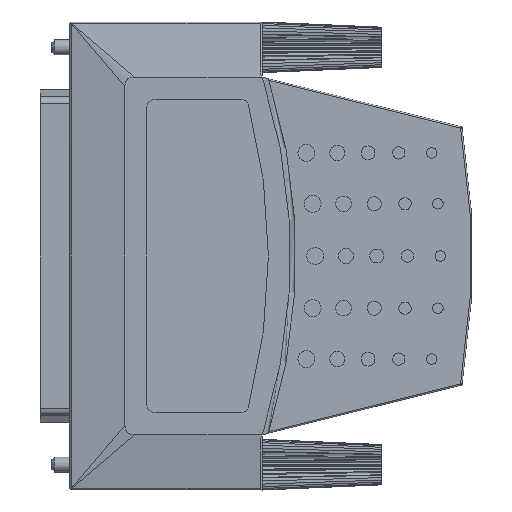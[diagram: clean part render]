
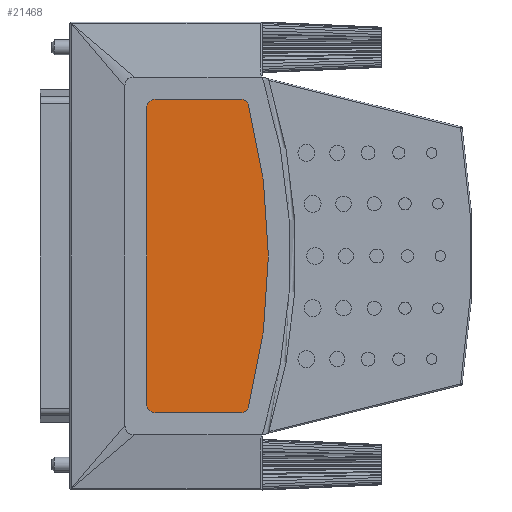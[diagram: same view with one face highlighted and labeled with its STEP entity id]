
A CAD part, front view. The second image highlights one B-rep face of the part: STEP entity #21468.
In plain terms, the highlighted planar face has unit normal (0, -1, 0).
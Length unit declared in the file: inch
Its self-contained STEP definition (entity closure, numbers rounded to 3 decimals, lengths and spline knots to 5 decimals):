
#7241=CARTESIAN_POINT('',(-1.734,-0.255,-0.811));
#7242=DIRECTION('',(0.,1.,0.));
#7243=DIRECTION('',(0.,0.,-1.));
#7244=AXIS2_PLACEMENT_3D('',#7241,#7242,#7243);
#7246=DIRECTION('',(0.,0.,1.));
#7247=VECTOR('',#7246,1.622);
#7248=CARTESIAN_POINT('',(-1.78,-0.255,-0.811));
#7249=LINE('',#7248,#7247);
#7250=CARTESIAN_POINT('',(-1.734,-0.255,0.811));
#7251=DIRECTION('',(0.,1.,0.));
#7252=DIRECTION('',(-1.,0.,0.));
#7253=AXIS2_PLACEMENT_3D('',#7250,#7251,#7252);
#7255=DIRECTION('',(1.,0.,0.));
#7256=VECTOR('',#7255,0.465);
#7257=CARTESIAN_POINT('',(-1.734,-0.255,0.857));
#7258=LINE('',#7257,#7256);
#7259=CARTESIAN_POINT('',(-1.269,-0.255,0.811));
#7260=DIRECTION('',(0.,1.,0.));
#7261=DIRECTION('',(0.,0.,1.));
#7262=AXIS2_PLACEMENT_3D('',#7259,#7260,#7261);
#7264=CARTESIAN_POINT('',(-4.29935,-0.255,0.));
#7265=DIRECTION('',(0.,1.,0.));
#7266=DIRECTION('',(0.966,0.,0.259));
#7267=AXIS2_PLACEMENT_3D('',#7264,#7265,#7266);
#7269=CARTESIAN_POINT('',(-1.269,-0.255,-0.811));
#7270=DIRECTION('',(0.,1.,0.));
#7271=DIRECTION('',(0.966,0.,-0.259));
#7272=AXIS2_PLACEMENT_3D('',#7269,#7270,#7271);
#7274=DIRECTION('',(-1.,0.,0.));
#7275=VECTOR('',#7274,0.465);
#7276=CARTESIAN_POINT('',(-1.269,-0.255,-0.857));
#7277=LINE('',#7276,#7275);
#8254=CARTESIAN_POINT('',(-1.734,-0.255,-0.857));
#8255=CARTESIAN_POINT('',(-1.78,-0.255,-0.811));
#8256=VERTEX_POINT('',#8254);
#8257=VERTEX_POINT('',#8255);
#8258=CARTESIAN_POINT('',(-1.78,-0.255,0.811));
#8259=VERTEX_POINT('',#8258);
#8260=CARTESIAN_POINT('',(-1.734,-0.255,0.857));
#8261=VERTEX_POINT('',#8260);
#8262=CARTESIAN_POINT('',(-1.269,-0.255,0.857));
#8263=VERTEX_POINT('',#8262);
#8264=CARTESIAN_POINT('',(-1.22456,-0.255,0.82289));
#8265=VERTEX_POINT('',#8264);
#8266=CARTESIAN_POINT('',(-1.22456,-0.255,-0.82289));
#8267=VERTEX_POINT('',#8266);
#8268=CARTESIAN_POINT('',(-1.269,-0.255,-0.857));
#8269=VERTEX_POINT('',#8268);
#21453=CARTESIAN_POINT('',(-1.9,-0.255,0.));
#21454=DIRECTION('',(0.,1.,0.));
#21455=DIRECTION('',(1.,0.,0.));
#21456=AXIS2_PLACEMENT_3D('',#21453,#21454,#21455);
#21457=PLANE('',#21456);
#21458=ORIENTED_EDGE('',*,*,#21349,.T.);
#21459=ORIENTED_EDGE('',*,*,#21364,.T.);
#21460=ORIENTED_EDGE('',*,*,#21378,.T.);
#21461=ORIENTED_EDGE('',*,*,#21392,.T.);
#21462=ORIENTED_EDGE('',*,*,#21406,.T.);
#21463=ORIENTED_EDGE('',*,*,#21420,.T.);
#21464=ORIENTED_EDGE('',*,*,#21434,.T.);
#21465=ORIENTED_EDGE('',*,*,#21447,.T.);
#21466=EDGE_LOOP('',(#21458,#21459,#21460,#21461,#21462,#21463,#21464,#21465));
#21467=FACE_OUTER_BOUND('',#21466,.F.);
#21468=ADVANCED_FACE('',(#21467),#21457,.F.);
#7245=CIRCLE('',#7244,0.046);
#7254=CIRCLE('',#7253,0.046);
#7263=CIRCLE('',#7262,0.046);
#7268=CIRCLE('',#7267,3.183);
#7273=CIRCLE('',#7272,0.046);
#21349=EDGE_CURVE('',#8256,#8257,#7245,.T.);
#21364=EDGE_CURVE('',#8257,#8259,#7249,.T.);
#21378=EDGE_CURVE('',#8259,#8261,#7254,.T.);
#21392=EDGE_CURVE('',#8261,#8263,#7258,.T.);
#21406=EDGE_CURVE('',#8263,#8265,#7263,.T.);
#21420=EDGE_CURVE('',#8265,#8267,#7268,.T.);
#21434=EDGE_CURVE('',#8267,#8269,#7273,.T.);
#21447=EDGE_CURVE('',#8269,#8256,#7277,.T.);
